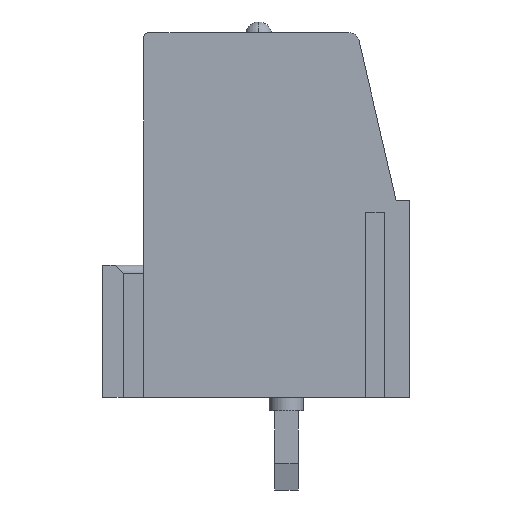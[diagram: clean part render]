
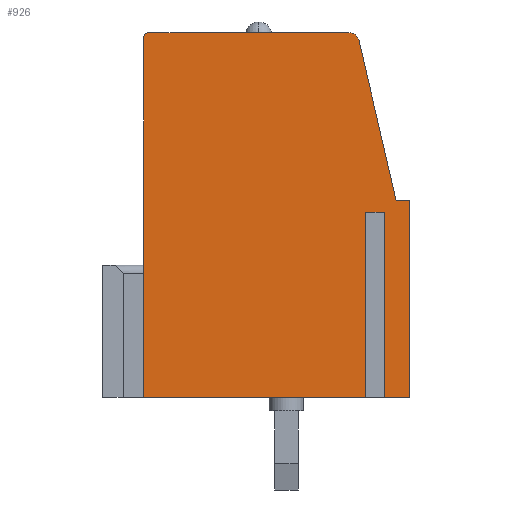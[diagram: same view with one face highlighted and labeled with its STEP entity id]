
A CAD part, left-side view. The second image highlights one B-rep face of the part: STEP entity #926.
In plain terms, the highlighted planar face has unit normal (-1, 0, 0).
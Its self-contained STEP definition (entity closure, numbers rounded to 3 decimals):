
#327 = EDGE_CURVE('',#328,#330,#332,.T.);
#328 = VERTEX_POINT('',#329);
#329 = CARTESIAN_POINT('',(-5.102,5.2,13.8));
#330 = VERTEX_POINT('',#331);
#331 = CARTESIAN_POINT('',(-5.102,-2.357,13.8));
#332 = LINE('',#333,#334);
#333 = CARTESIAN_POINT('',(-5.102,-2.25,13.8));
#334 = VECTOR('',#335,1.);
#335 = DIRECTION('',(0.,-1.,0.));
#691 = VERTEX_POINT('',#692);
#692 = CARTESIAN_POINT('',(-5.102,-3.143,0.));
#700 = EDGE_CURVE('',#701,#691,#703,.T.);
#701 = VERTEX_POINT('',#702);
#702 = CARTESIAN_POINT('',(-5.102,5.4,0.));
#703 = LINE('',#704,#705);
#704 = CARTESIAN_POINT('',(-5.102,6.95,0.));
#705 = VECTOR('',#706,1.);
#706 = DIRECTION('',(0.,-1.,0.));
#821 = VERTEX_POINT('',#822);
#822 = CARTESIAN_POINT('',(-5.102,-4.65,0.));
#828 = EDGE_CURVE('',#829,#821,#831,.T.);
#829 = VERTEX_POINT('',#830);
#830 = CARTESIAN_POINT('',(-5.102,-3.557,0.));
#831 = LINE('',#832,#833);
#832 = CARTESIAN_POINT('',(-5.102,6.95,0.));
#833 = VECTOR('',#834,1.);
#834 = DIRECTION('',(0.,-1.,0.));
#926 = ADVANCED_FACE('',(#927),#1000,.F.);
#927 = FACE_BOUND('',#928,.T.);
#928 = EDGE_LOOP('',(#929,#930,#939,#945,#946,#954,#962,#968,#969,#977,
    #985,#993));
#929 = ORIENTED_EDGE('',*,*,#327,.F.);
#930 = ORIENTED_EDGE('',*,*,#931,.F.);
#931 = EDGE_CURVE('',#932,#328,#934,.T.);
#932 = VERTEX_POINT('',#933);
#933 = CARTESIAN_POINT('',(-5.102,5.4,13.6));
#934 = CIRCLE('',#935,0.2);
#935 = AXIS2_PLACEMENT_3D('',#936,#937,#938);
#936 = CARTESIAN_POINT('',(-5.102,5.2,13.6));
#937 = DIRECTION('',(1.,0.,0.));
#938 = DIRECTION('',(0.,1.,0.));
#939 = ORIENTED_EDGE('',*,*,#940,.T.);
#940 = EDGE_CURVE('',#932,#701,#941,.T.);
#941 = LINE('',#942,#943);
#942 = CARTESIAN_POINT('',(-5.102,5.4,-37.442));
#943 = VECTOR('',#944,1.);
#944 = DIRECTION('',(0.,0.,-1.));
#945 = ORIENTED_EDGE('',*,*,#700,.T.);
#946 = ORIENTED_EDGE('',*,*,#947,.T.);
#947 = EDGE_CURVE('',#691,#948,#950,.T.);
#948 = VERTEX_POINT('',#949);
#949 = CARTESIAN_POINT('',(-5.102,-3.143,7.));
#950 = LINE('',#951,#952);
#951 = CARTESIAN_POINT('',(-5.102,-3.143,-37.442));
#952 = VECTOR('',#953,1.);
#953 = DIRECTION('',(0.,0.,1.));
#954 = ORIENTED_EDGE('',*,*,#955,.F.);
#955 = EDGE_CURVE('',#956,#948,#958,.T.);
#956 = VERTEX_POINT('',#957);
#957 = CARTESIAN_POINT('',(-5.102,-3.557,7.));
#958 = LINE('',#959,#960);
#959 = CARTESIAN_POINT('',(-5.102,80.463,7.));
#960 = VECTOR('',#961,1.);
#961 = DIRECTION('',(0.,1.,0.));
#962 = ORIENTED_EDGE('',*,*,#963,.T.);
#963 = EDGE_CURVE('',#956,#829,#964,.T.);
#964 = LINE('',#965,#966);
#965 = CARTESIAN_POINT('',(-5.102,-3.557,-37.442));
#966 = VECTOR('',#967,1.);
#967 = DIRECTION('',(0.,0.,-1.));
#968 = ORIENTED_EDGE('',*,*,#828,.T.);
#969 = ORIENTED_EDGE('',*,*,#970,.F.);
#970 = EDGE_CURVE('',#971,#821,#973,.T.);
#971 = VERTEX_POINT('',#972);
#972 = CARTESIAN_POINT('',(-5.102,-4.65,7.45));
#973 = LINE('',#974,#975);
#974 = CARTESIAN_POINT('',(-5.102,-4.65,-37.442));
#975 = VECTOR('',#976,1.);
#976 = DIRECTION('',(0.,0.,-1.));
#977 = ORIENTED_EDGE('',*,*,#978,.T.);
#978 = EDGE_CURVE('',#971,#979,#981,.T.);
#979 = VERTEX_POINT('',#980);
#980 = CARTESIAN_POINT('',(-5.102,-4.15,7.45));
#981 = LINE('',#982,#983);
#982 = CARTESIAN_POINT('',(-5.102,-4.65,7.45));
#983 = VECTOR('',#984,1.);
#984 = DIRECTION('',(0.,1.,0.));
#985 = ORIENTED_EDGE('',*,*,#986,.T.);
#986 = EDGE_CURVE('',#979,#987,#989,.T.);
#987 = VERTEX_POINT('',#988);
#988 = CARTESIAN_POINT('',(-5.102,-2.747,13.491));
#989 = LINE('',#990,#991);
#990 = CARTESIAN_POINT('',(-5.102,-4.15,7.45));
#991 = VECTOR('',#992,1.);
#992 = DIRECTION('',(0.,0.226,0.974));
#993 = ORIENTED_EDGE('',*,*,#994,.F.);
#994 = EDGE_CURVE('',#330,#987,#995,.T.);
#995 = CIRCLE('',#996,0.4);
#996 = AXIS2_PLACEMENT_3D('',#997,#998,#999);
#997 = CARTESIAN_POINT('',(-5.102,-2.357,13.4));
#998 = DIRECTION('',(1.,0.,0.));
#999 = DIRECTION('',(0.,1.,0.));
#1000 = PLANE('',#1001);
#1001 = AXIS2_PLACEMENT_3D('',#1002,#1003,#1004);
#1002 = CARTESIAN_POINT('',(-5.102,80.463,-37.442));
#1003 = DIRECTION('',(1.,0.,0.));
#1004 = DIRECTION('',(0.,1.,0.));
